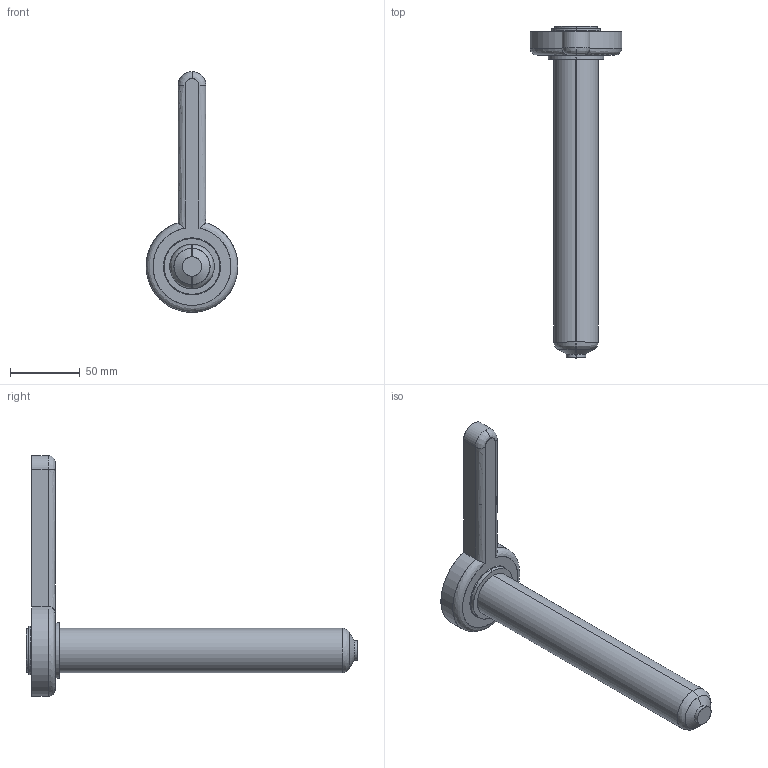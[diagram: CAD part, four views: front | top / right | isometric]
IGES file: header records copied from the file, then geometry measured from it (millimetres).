
Start section: SolidWorks IGES file using analytic representation for surfaces
Global section: file name: C:\Documents and Settings\ws-20\Desktop\TEMPORANEA\Sede UGBE4005-S-A C-214 L-236 P-0.IGS; native system: SolidWorks 2012; preprocessor: SolidWorks 2012; author: ws-20; date: 120306.141601; units: millimetre
Bounding box: 65.98 x 238.54 x 173 mm (x, y, z)
Surface area: 38859.8 mm2 (no closed solid volume)
Topology: 0 solids, 0 shells, 34 faces, 786 edges, 786 vertices
Faces by surface type: revolution 21, bspline 13
